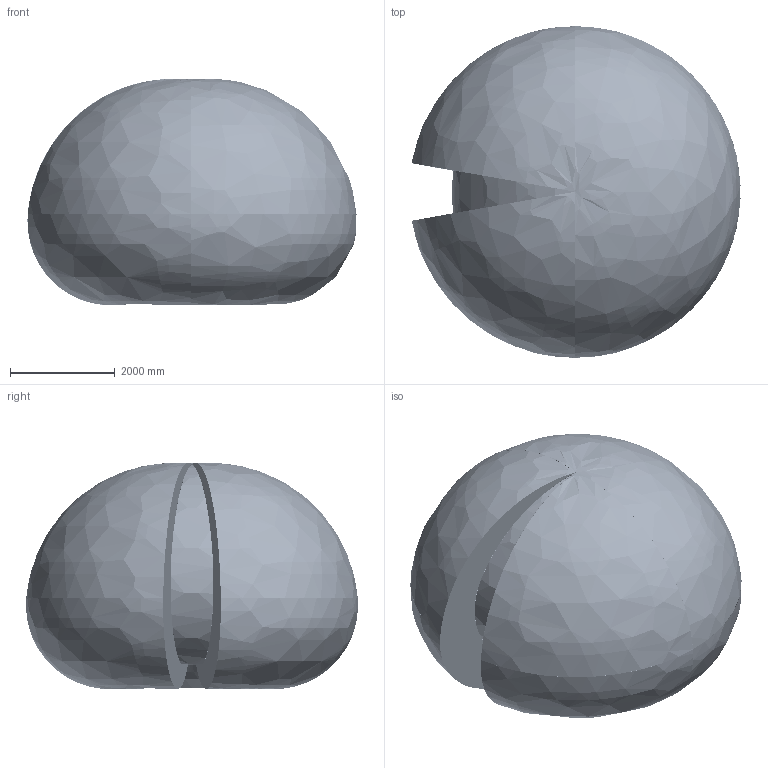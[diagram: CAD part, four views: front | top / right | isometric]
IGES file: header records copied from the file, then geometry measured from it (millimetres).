
Start section: SolidWorks IGES file using analytic representation for surfaces
Global section: file name: C:\Data\SAP_DOC\IRB6740_lightweight\6740\IRB6740_240kg-320_OC_01_SW_J\IRB6740_240kg-320_OC_01_IGES_J\IRB6740_240kg-320_OC_01_ASM_CAD.igs; native system: SolidWorks 2024; preprocessor: SolidWorks 2024; author: SEJAOLS6; date: 260513.070406; units: millimetre
Bounding box: 6293.48 x 6349.57 x 4328.18 mm (x, y, z)
Surface area: 146484774.9 mm2 (no closed solid volume)
Topology: 0 solids, 0 shells, 8301 faces, 129502 edges, 129361 vertices
Faces by surface type: bspline 4813, revolution 3488
